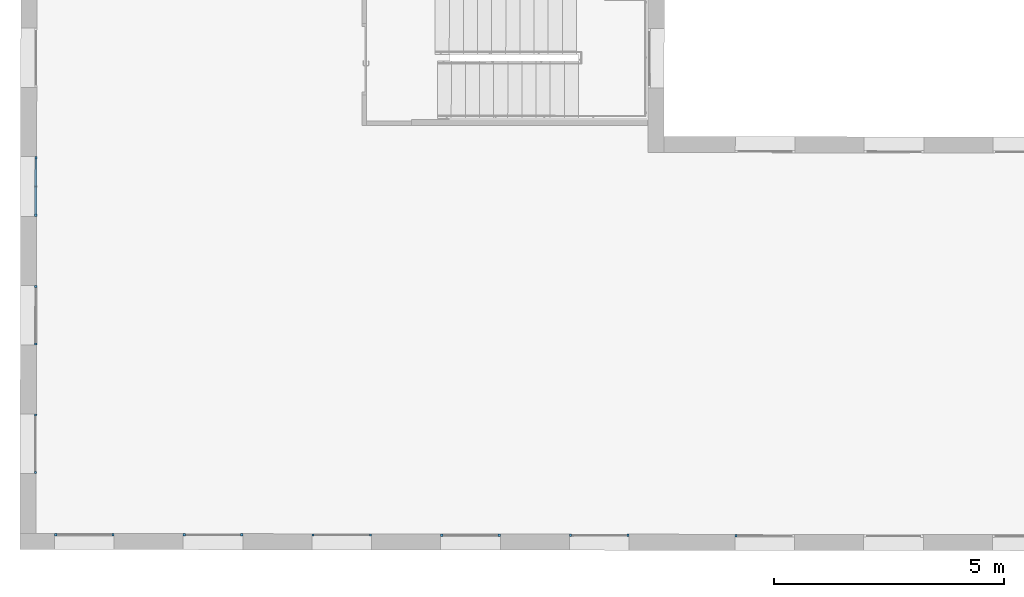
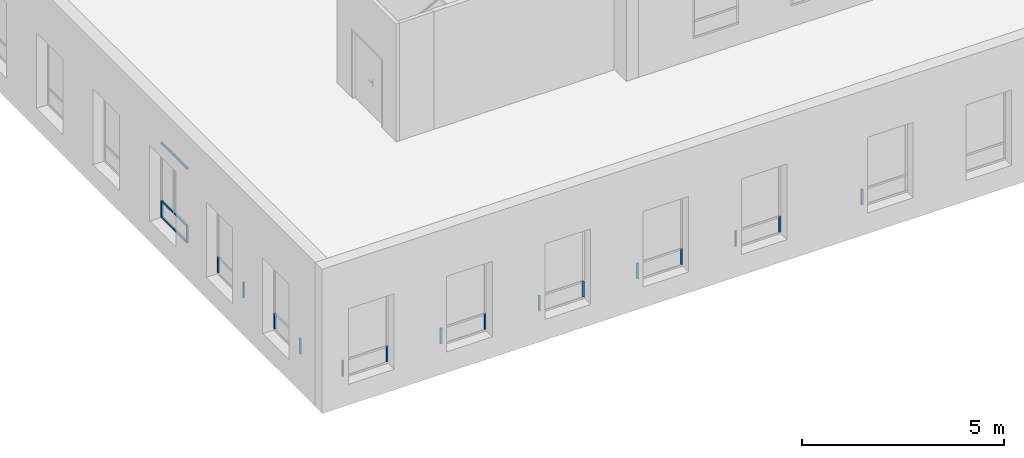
# One storey, part 14 of 35: 23 members, 9 elements without a shape of their own.
"""IFC2X3 building model written with IfcOpenShell, lengths in metres."""

from ifc_helpers import new_model, entity, si_unit, converted_unit, derived_unit, direction, frame, origin, origin_2d_with_axis, place, context, subcontext, project, spatial, rectangle, extrude, source, transform, mapped, material, type_object, type_shapes, element, aggregate, save


model = new_model("IFC2X3")

# Units and contexts
model_context = context("Model", 3, precision=1e-05, world=origin(), true_north=direction((6.123233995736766e-17, 1.0)))
body_context = subcontext(model_context, "Body", "Model", "MODEL_VIEW")
ifc_project = project(units=[si_unit("LENGTHUNIT", "METRE"), si_unit("AREAUNIT", "SQUARE_METRE"), converted_unit("PLANEANGLEUNIT", "DEGREE", entity("IfcPlaneAngleMeasure", 0.017453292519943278), si_unit("PLANEANGLEUNIT", "RADIAN"), dimensions=[0, 0, 0, 0, 0, 0, 0]), derived_unit("THERMALTRANSMITTANCEUNIT", [(si_unit("MASSUNIT", "GRAM", prefix="KILO"), 1), (si_unit("THERMODYNAMICTEMPERATUREUNIT", "KELVIN"), -1), (si_unit("TIMEUNIT", "SECOND"), -3)])], contexts=[model_context])

# Site, building, storey
site_placement = place(None, frame((1253.6752467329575, 2072.143113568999, 91.49999999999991), z_axis=(0.0, 0.0, 1.0), x_axis=(0.7237211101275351, 0.6900925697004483, 0.0)))
site = spatial("IfcSite", under=ifc_project, at=site_placement, Name="Surface", CompositionType="ELEMENT")
building_placement = place(site_placement, origin())
building = spatial("IfcBuilding", under=site, at=building_placement, CompositionType="ELEMENT")
storey_placement = place(building_placement, frame((0.0, 0.0, 3.549999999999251)))
storey = spatial("IfcBuildingStorey", under=building, at=storey_placement, Name="1-R+1", CompositionType="ELEMENT", Elevation=3.549999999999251)

# Curtain wall, member
curtain_wall_type = type_object("IfcCurtainWallType", Name="Mur-rideau:Menuiserie Ext 1F+1OB VERTIC", PredefinedType="NOTDEFINED")
curtain_wall_1_placement = place(storey_placement, frame((0.0, 0.0, -3.549999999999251)))
curtain_wall_1 = element("IfcCurtainWall", 1, at=curtain_wall_1_placement, inside=storey, type_object=curtain_wall_type, Name="Mur-rideau:Menuiserie Ext 1F+1OB VERTIC", ObjectType="Mur-rideau:Menuiserie Ext 1F+1OB VERTIC")
ifc_material = material(Name="OMD_Aluminium Men Ext")
member_type_1 = type_object("IfcMemberType", Name="Meneau rectangulaire:50x50", PredefinedType="MULLION", material=ifc_material)
shared_shape_1 = source(origin(), body_context, "Body", "SweptSolid", [
    extrude(rectangle(XDim=0.05, YDim=0.049999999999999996, at=origin_2d_with_axis()), frame((-0.025, 0.0, -0.4699999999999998), z_axis=(0.0, 0.0, 1.0), x_axis=(-1.0, 0.0, 0.0)), (0.0, 0.0, 1.0), 0.4699999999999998),
])
type_shapes(member_type_1, [shared_shape_1])
member_1_placement = place(curtain_wall_1_placement, frame((152.6005365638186, -3.756054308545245, 4.219999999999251), z_axis=(0.0, 0.0, -1.0), x_axis=(-0.7228702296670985, 0.6909838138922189, 0.0)))
member_1 = element("IfcMember", 2, at=member_1_placement, type_object=member_type_1, material=ifc_material, Name="Meneau rectangulaire:50x50", ObjectType="Meneau rectangulaire:50x50", context=body_context, shape_type="MappedRepresentation", body=[
    mapped(shared_shape_1, transform((0.0, 0.0, 0.0), scale=1.0)),
])

curtain_wall_2_placement = place(storey_placement, frame((0.0, 0.0, -3.549999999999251)))
curtain_wall_2 = element("IfcCurtainWall", 3, at=curtain_wall_2_placement, inside=storey, type_object=curtain_wall_type, Name="Mur-rideau:Menuiserie Ext 1F+1OB VERTIC", ObjectType="Mur-rideau:Menuiserie Ext 1F+1OB VERTIC")
member_2_placement = place(curtain_wall_2_placement, frame((150.57649992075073, -1.8212996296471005, 4.219999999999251), z_axis=(0.0, 0.0, -1.0), x_axis=(-0.7228702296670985, 0.6909838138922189, 0.0)))
member_2 = element("IfcMember", 4, at=member_2_placement, type_object=member_type_1, material=ifc_material, Name="Meneau rectangulaire:50x50", ObjectType="Meneau rectangulaire:50x50", context=body_context, shape_type="MappedRepresentation", body=[
    mapped(shared_shape_1, transform((0.0, 0.0, 0.0), scale=1.0)),
])

curtain_wall_3_placement = place(storey_placement, frame((0.0, 0.0, -3.549999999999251)))
curtain_wall_3 = element("IfcCurtainWall", 5, at=curtain_wall_3_placement, inside=storey, type_object=curtain_wall_type, Name="Mur-rideau:Menuiserie Ext 1F+1OB VERTIC", ObjectType="Mur-rideau:Menuiserie Ext 1F+1OB VERTIC")
member_3_placement = place(curtain_wall_3_placement, frame((148.5524632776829, 0.11345504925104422, 4.219999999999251), z_axis=(0.0, 0.0, -1.0), x_axis=(-0.7228702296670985, 0.6909838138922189, 0.0)))
member_3 = element("IfcMember", 6, at=member_3_placement, type_object=member_type_1, material=ifc_material, Name="Meneau rectangulaire:50x50", ObjectType="Meneau rectangulaire:50x50", context=body_context, shape_type="MappedRepresentation", body=[
    mapped(shared_shape_1, transform((0.0, 0.0, 0.0), scale=1.0)),
])

curtain_wall_4_placement = place(storey_placement, frame((0.0, 0.0, -3.549999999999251)))
curtain_wall_4 = element("IfcCurtainWall", 7, at=curtain_wall_4_placement, inside=storey, type_object=curtain_wall_type, Name="Mur-rideau:Menuiserie Ext 1F+1OB VERTIC", ObjectType="Mur-rideau:Menuiserie Ext 1F+1OB VERTIC")
member_4_placement = place(curtain_wall_4_placement, frame((146.5281144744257, 2.048508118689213, 4.219999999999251), z_axis=(0.0, 0.0, -1.0), x_axis=(-0.7228702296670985, 0.6909838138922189, 0.0)))
member_4 = element("IfcMember", 8, at=member_4_placement, type_object=member_type_1, material=ifc_material, Name="Meneau rectangulaire:50x50", ObjectType="Meneau rectangulaire:50x50", context=body_context, shape_type="MappedRepresentation", body=[
    mapped(shared_shape_1, transform((0.0, 0.0, 0.0), scale=1.0)),
])

curtain_wall_5_placement = place(storey_placement, frame((0.0, 0.0, -3.549999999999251)))
curtain_wall_5 = element("IfcCurtainWall", 9, at=curtain_wall_5_placement, inside=storey, type_object=curtain_wall_type, Name="Mur-rideau:Menuiserie Ext 1F+1OB VERTIC", ObjectType="Mur-rideau:Menuiserie Ext 1F+1OB VERTIC")
member_5_placement = place(curtain_wall_5_placement, frame((144.50438999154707, 3.9829644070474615, 4.219999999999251), z_axis=(0.0, 0.0, -1.0), x_axis=(-0.7228702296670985, 0.6909838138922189, 0.0)))
member_5 = element("IfcMember", 10, at=member_5_placement, type_object=member_type_1, material=ifc_material, Name="Meneau rectangulaire:50x50", ObjectType="Meneau rectangulaire:50x50", context=body_context, shape_type="MappedRepresentation", body=[
    mapped(shared_shape_1, transform((0.0, 0.0, 0.0), scale=1.0)),
])

curtain_wall_6_placement = place(storey_placement, frame((0.0, 0.0, -3.549999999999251)))
curtain_wall_6 = element("IfcCurtainWall", 11, at=curtain_wall_6_placement, inside=storey, type_object=curtain_wall_type, Name="Mur-rideau:Menuiserie Ext 1F+1OB VERTIC", ObjectType="Mur-rideau:Menuiserie Ext 1F+1OB VERTIC")
member_6_placement = place(curtain_wall_6_placement, frame((146.02021282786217, 6.166797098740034, 4.219999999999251), z_axis=(0.0, 0.0, -1.0), x_axis=(0.6911544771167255, 0.7227070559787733, 0.0)))
member_6 = element("IfcMember", 12, at=member_6_placement, type_object=member_type_1, material=ifc_material, Name="Meneau rectangulaire:50x50", ObjectType="Meneau rectangulaire:50x50", context=body_context, shape_type="MappedRepresentation", body=[
    mapped(shared_shape_1, transform((0.0, 0.0, 0.0), scale=1.0)),
])

curtain_wall_7_placement = place(storey_placement, frame((0.0, 0.0, -3.549999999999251)))
curtain_wall_7 = element("IfcCurtainWall", 13, at=curtain_wall_7_placement, inside=storey, type_object=curtain_wall_type, Name="Mur-rideau:Menuiserie Ext 1F+1OB VERTIC", ObjectType="Mur-rideau:Menuiserie Ext 1F+1OB VERTIC")
member_7_placement = place(curtain_wall_7_placement, frame((147.9515125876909, 8.187219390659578, 4.219999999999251), z_axis=(0.0, 0.0, -1.0), x_axis=(0.6911544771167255, 0.7227070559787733, 0.0)))
member_7 = element("IfcMember", 14, at=member_7_placement, type_object=member_type_1, material=ifc_material, Name="Meneau rectangulaire:50x50", ObjectType="Meneau rectangulaire:50x50", context=body_context, shape_type="MappedRepresentation", body=[
    mapped(shared_shape_1, transform((0.0, 0.0, 0.0), scale=1.0)),
])

curtain_wall_8_placement = place(storey_placement, frame((0.0, 0.0, -3.549999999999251)))
curtain_wall_8 = element("IfcCurtainWall", 15, at=curtain_wall_8_placement, inside=storey, type_object=curtain_wall_type, Name="Mur-rideau:Menuiserie Ext 1F+1OB VERTIC", ObjectType="Mur-rideau:Menuiserie Ext 1F+1OB VERTIC")
member_8_placement = place(curtain_wall_8_placement, frame((149.8862672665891, 10.21125603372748, 4.219999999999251), z_axis=(0.0, 0.0, -1.0), x_axis=(0.6911544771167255, 0.7227070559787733, 0.0)))
member_8 = element("IfcMember", 16, at=member_8_placement, type_object=member_type_1, material=ifc_material, Name="Meneau rectangulaire:50x50", ObjectType="Meneau rectangulaire:50x50", context=body_context, shape_type="MappedRepresentation", body=[
    mapped(shared_shape_1, transform((0.0, 0.0, 0.0), scale=1.0)),
])

curtain_wall_9_placement = place(storey_placement, frame((0.0, 0.0, -3.549999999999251)))
curtain_wall_9 = element("IfcCurtainWall", 17, at=curtain_wall_9_placement, inside=storey, type_object=curtain_wall_type, Name="Mur-rideau:Menuiserie Ext 1F+1OB VERTIC", ObjectType="Mur-rideau:Menuiserie Ext 1F+1OB VERTIC")
member_9_placement = place(curtain_wall_9_placement, frame((155.1994526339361, -6.247165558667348, 4.219999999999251), z_axis=(0.0, 0.0, -1.0), x_axis=(-0.7228702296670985, 0.6909838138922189, 0.0)))
member_9 = element("IfcMember", 18, at=member_9_placement, type_object=member_type_1, material=ifc_material, Name="Meneau rectangulaire:50x50", ObjectType="Meneau rectangulaire:50x50", context=body_context, shape_type="MappedRepresentation", body=[
    mapped(shared_shape_1, transform((0.0, 0.0, 0.0), scale=1.0)),
])
aggregate(curtain_wall_9, [member_9])

# Member
member_type_2 = type_object("IfcMemberType", Name="Meneau rectangulaire:50x50", PredefinedType="MULLION", material=ifc_material)
shared_shape_2 = source(origin(), body_context, "Body", "SweptSolid", [
    extrude(rectangle(XDim=0.05, YDim=0.049999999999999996, at=origin_2d_with_axis()), frame((-0.025, 0.0, -0.4699999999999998), z_axis=(0.0, 0.0, 1.0), x_axis=(-1.0, 0.0, 0.0)), (0.0, 0.0, 1.0), 0.4699999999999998),
])
type_shapes(member_type_2, [shared_shape_2])
member_10_placement = place(curtain_wall_1_placement, frame((153.54004803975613, -4.654123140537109, 4.689999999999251), z_axis=(0.0, 0.0, 1.0), x_axis=(0.7228702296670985, -0.6909838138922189, 0.0)))
member_10 = element("IfcMember", 19, at=member_10_placement, type_object=member_type_2, material=ifc_material, Name="Meneau rectangulaire:50x50", ObjectType="Meneau rectangulaire:50x50", context=body_context, shape_type="MappedRepresentation", body=[
    mapped(shared_shape_2, transform((0.0, 0.0, 0.0), scale=1.0)),
])

aggregate(curtain_wall_1, [member_1, member_10])

member_11_placement = place(curtain_wall_2_placement, frame((151.51601139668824, -2.7193684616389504, 4.689999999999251), z_axis=(0.0, 0.0, 1.0), x_axis=(0.7228702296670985, -0.6909838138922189, 0.0)))
member_11 = element("IfcMember", 20, at=member_11_placement, type_object=member_type_2, material=ifc_material, Name="Meneau rectangulaire:50x50", ObjectType="Meneau rectangulaire:50x50", context=body_context, shape_type="MappedRepresentation", body=[
    mapped(shared_shape_2, transform((0.0, 0.0, 0.0), scale=1.0)),
])

aggregate(curtain_wall_2, [member_2, member_11])

member_12_placement = place(curtain_wall_3_placement, frame((149.4919747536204, -0.7846137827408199, 4.689999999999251), z_axis=(0.0, 0.0, 1.0), x_axis=(0.7228702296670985, -0.6909838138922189, 0.0)))
member_12 = element("IfcMember", 21, at=member_12_placement, type_object=member_type_2, material=ifc_material, Name="Meneau rectangulaire:50x50", ObjectType="Meneau rectangulaire:50x50", context=body_context, shape_type="MappedRepresentation", body=[
    mapped(shared_shape_2, transform((0.0, 0.0, 0.0), scale=1.0)),
])

aggregate(curtain_wall_3, [member_3, member_12])

member_13_placement = place(curtain_wall_4_placement, frame((147.46762595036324, 1.1504392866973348, 4.689999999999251), z_axis=(0.0, 0.0, 1.0), x_axis=(0.7228702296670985, -0.6909838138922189, 0.0)))
member_13 = element("IfcMember", 22, at=member_13_placement, type_object=member_type_2, material=ifc_material, Name="Meneau rectangulaire:50x50", ObjectType="Meneau rectangulaire:50x50", context=body_context, shape_type="MappedRepresentation", body=[
    mapped(shared_shape_2, transform((0.0, 0.0, 0.0), scale=1.0)),
])

aggregate(curtain_wall_4, [member_4, member_13])

member_14_placement = place(curtain_wall_5_placement, frame((145.44390146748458, 3.0848955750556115, 4.689999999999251), z_axis=(0.0, 0.0, 1.0), x_axis=(0.7228702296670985, -0.6909838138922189, 0.0)))
member_14 = element("IfcMember", 23, at=member_14_placement, type_object=member_type_2, material=ifc_material, Name="Meneau rectangulaire:50x50", ObjectType="Meneau rectangulaire:50x50", context=body_context, shape_type="MappedRepresentation", body=[
    mapped(shared_shape_2, transform((0.0, 0.0, 0.0), scale=1.0)),
])

aggregate(curtain_wall_5, [member_5, member_14])

member_15_placement = place(curtain_wall_6_placement, frame((145.1219221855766, 5.22749769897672, 4.689999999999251), z_axis=(0.0, 0.0, 1.0), x_axis=(-0.6911544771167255, -0.7227070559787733, 0.0)))
member_15 = element("IfcMember", 24, at=member_15_placement, type_object=member_type_2, material=ifc_material, Name="Meneau rectangulaire:50x50", ObjectType="Meneau rectangulaire:50x50", context=body_context, shape_type="MappedRepresentation", body=[
    mapped(shared_shape_2, transform((0.0, 0.0, 0.0), scale=1.0)),
])

aggregate(curtain_wall_6, [member_6, member_15])

member_16_placement = place(curtain_wall_7_placement, frame((147.0532219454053, 7.247919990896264, 4.689999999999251), z_axis=(0.0, 0.0, 1.0), x_axis=(-0.6911544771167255, -0.7227070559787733, 0.0)))
member_16 = element("IfcMember", 25, at=member_16_placement, type_object=member_type_2, material=ifc_material, Name="Meneau rectangulaire:50x50", ObjectType="Meneau rectangulaire:50x50", context=body_context, shape_type="MappedRepresentation", body=[
    mapped(shared_shape_2, transform((0.0, 0.0, 0.0), scale=1.0)),
])

aggregate(curtain_wall_7, [member_7, member_16])

member_17_placement = place(curtain_wall_8_placement, frame((148.98797662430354, 9.271956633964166, 4.689999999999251), z_axis=(0.0, 0.0, 1.0), x_axis=(-0.6911544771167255, -0.7227070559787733, 0.0)))
member_17 = element("IfcMember", 26, at=member_17_placement, type_object=member_type_2, material=ifc_material, Name="Meneau rectangulaire:50x50", ObjectType="Meneau rectangulaire:50x50", context=body_context, shape_type="MappedRepresentation", body=[
    mapped(shared_shape_2, transform((0.0, 0.0, 0.0), scale=1.0)),
])

member_type_3 = type_object("IfcMemberType", Name="Meneau rectangulaire:50x50", PredefinedType="MULLION", material=ifc_material)
shared_shape_3 = source(origin(), body_context, "Body", "SweptSolid", [
    extrude(rectangle(XDim=0.05, YDim=0.05, at=origin_2d_with_axis()), frame((-0.025, 0.0, -0.6498479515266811), z_axis=(0.0, 0.0, 1.0), x_axis=(-1.0, 0.0, 0.0)), (0.0, 0.0, 1.0), 0.6498479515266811),
])
type_shapes(member_type_3, [shared_shape_3])
member_18_placement = place(curtain_wall_8_placement, frame((148.98797662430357, 9.27195663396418, 4.169999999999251), z_axis=(-0.6911544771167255, -0.7227070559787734, 0.0), x_axis=(0.0, 0.0, -1.0)))
member_18 = element("IfcMember", 27, at=member_18_placement, type_object=member_type_3, material=ifc_material, Name="Meneau rectangulaire:50x50", ObjectType="Meneau rectangulaire:50x50", context=body_context, shape_type="MappedRepresentation", body=[
    mapped(shared_shape_3, transform((0.0, 0.0, 0.0), scale=1.0)),
])

member_type_4 = type_object("IfcMemberType", Name="Meneau rectangulaire:50x50", PredefinedType="MULLION", material=ifc_material)
shared_shape_4 = source(origin(), body_context, "Body", "SweptSolid", [
    extrude(rectangle(XDim=0.05, YDim=0.05, at=origin_2d_with_axis()), frame((-0.025, 0.0, -0.6498479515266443), z_axis=(0.0, 0.0, 1.0), x_axis=(-1.0, 0.0, 0.0)), (0.0, 0.0, 1.0), 0.64984795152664),
])
type_shapes(member_type_4, [shared_shape_4])
member_19_placement = place(curtain_wall_8_placement, frame((149.43712194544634, 9.741606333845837, 4.169999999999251), z_axis=(-0.6911544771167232, -0.7227070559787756, 0.0), x_axis=(0.0, 0.0, -1.0)))
member_19 = element("IfcMember", 28, at=member_19_placement, type_object=member_type_4, material=ifc_material, Name="Meneau rectangulaire:50x50", ObjectType="Meneau rectangulaire:50x50", context=body_context, shape_type="MappedRepresentation", body=[
    mapped(shared_shape_4, transform((0.0, 0.0, 0.0), scale=1.0)),
])

member_type_5 = type_object("IfcMemberType", Name="Meneau rectangulaire:50x50", PredefinedType="MULLION", material=ifc_material)
shared_shape_5 = source(origin(), body_context, "Body", "SweptSolid", [
    extrude(rectangle(XDim=0.05, YDim=0.049999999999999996, at=origin_2d_with_axis()), frame((-0.025, 0.0, -0.6498479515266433), z_axis=(0.0, 0.0, 1.0), x_axis=(-1.0, 0.0, 0.0)), (0.0, 0.0, 1.0), 0.6498479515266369),
])
type_shapes(member_type_5, [shared_shape_5])
member_20_placement = place(curtain_wall_8_placement, frame((149.88626726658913, 10.211256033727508, 6.4499999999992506), z_axis=(0.6911544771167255, 0.7227070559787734, 0.0), x_axis=(0.0, 0.0, 1.0)))
member_20 = element("IfcMember", 29, at=member_20_placement, type_object=member_type_5, material=ifc_material, Name="Meneau rectangulaire:50x50", ObjectType="Meneau rectangulaire:50x50", context=body_context, shape_type="MappedRepresentation", body=[
    mapped(shared_shape_5, transform((0.0, 0.0, 0.0), scale=1.0)),
])

member_type_6 = type_object("IfcMemberType", Name="Meneau rectangulaire:50x50", PredefinedType="MULLION", material=ifc_material)
shared_shape_6 = source(origin(), body_context, "Body", "SweptSolid", [
    extrude(rectangle(XDim=0.05, YDim=0.05, at=origin_2d_with_axis()), frame((0.0, 0.0, -0.5748479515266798), z_axis=(0.0, 0.0, 1.0), x_axis=(-1.0, 0.0, 0.0)), (0.0, 0.0, 1.0), 0.5748479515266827),
])
type_shapes(member_type_6, [shared_shape_6])
member_21_placement = place(curtain_wall_8_placement, frame((149.41984308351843, 9.723538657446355, 4.689999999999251), z_axis=(0.691154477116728, 0.722707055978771, 0.0), x_axis=(0.0, 0.0, 1.0)))
member_21 = element("IfcMember", 30, at=member_21_placement, type_object=member_type_6, material=ifc_material, Name="Meneau rectangulaire:50x50", ObjectType="Meneau rectangulaire:50x50", context=body_context, shape_type="MappedRepresentation", body=[
    mapped(shared_shape_6, transform((0.0, 0.0, 0.0), scale=1.0)),
])

member_22_placement = place(curtain_wall_8_placement, frame((149.85170954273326, 10.175120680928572, 4.689999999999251), z_axis=(0.6911544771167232, 0.7227070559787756, 0.0), x_axis=(0.0, 0.0, 1.0)))
member_22 = element("IfcMember", 31, at=member_22_placement, type_object=member_type_6, material=ifc_material, Name="Meneau rectangulaire:50x50", ObjectType="Meneau rectangulaire:50x50", context=body_context, shape_type="MappedRepresentation", body=[
    mapped(shared_shape_6, transform((0.0, 0.0, 0.0), scale=1.0)),
])

member_type_7 = type_object("IfcMemberType", Name="Meneau rectangulaire:50x50", PredefinedType="MULLION", material=ifc_material)
shared_shape_7 = source(origin(), body_context, "Body", "SweptSolid", [
    extrude(rectangle(XDim=0.05, YDim=0.05000000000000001, at=origin_2d_with_axis()), frame((-0.025, 0.0, -0.6498479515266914), z_axis=(0.0, 0.0, 1.0), x_axis=(-1.0, 0.0, 0.0)), (0.0, 0.0, 1.0), 0.6498479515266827),
])
type_shapes(member_type_7, [shared_shape_7])
member_23_placement = place(curtain_wall_8_placement, frame((149.43712194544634, 9.741606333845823, 6.4499999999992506), z_axis=(0.691154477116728, 0.722707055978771, 0.0), x_axis=(0.0, 0.0, 1.0)))
member_23 = element("IfcMember", 32, at=member_23_placement, type_object=member_type_7, material=ifc_material, Name="Meneau rectangulaire:50x50", ObjectType="Meneau rectangulaire:50x50", context=body_context, shape_type="MappedRepresentation", body=[
    mapped(shared_shape_7, transform((0.0, 0.0, 0.0), scale=1.0)),
])

aggregate(curtain_wall_8, [member_20, member_18, member_8, member_17, member_21, member_23, member_19, member_22])

save(model, "model.ifc")
